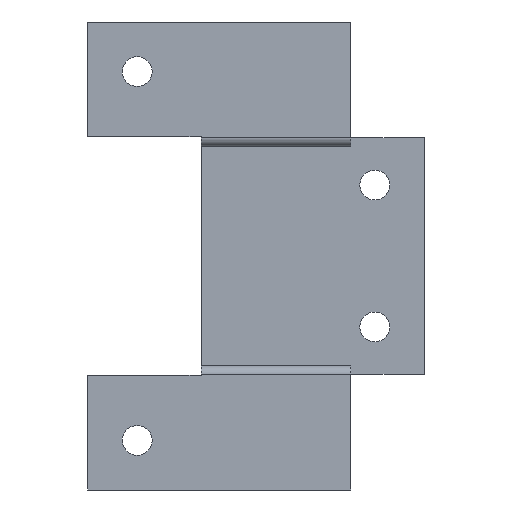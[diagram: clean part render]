
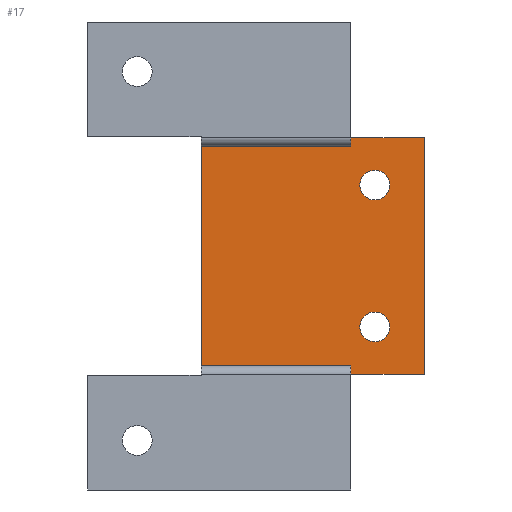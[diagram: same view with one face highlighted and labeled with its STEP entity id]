
A CAD part, left-side view. The second image highlights one B-rep face of the part: STEP entity #17.
In plain terms, the highlighted planar face has unit normal (-1, 0, 0).
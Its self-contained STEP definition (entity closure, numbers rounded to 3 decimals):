
#1 = CARTESIAN_POINT ( 'NONE',  ( -10.2, 7., -12.1 ) ) ;
#10 = VERTEX_POINT ( 'NONE', #526 ) ;
#11 = VECTOR ( 'NONE', #691, 1000. ) ;
#17 = ADVANCED_FACE ( 'NONE', ( #1165, #520, #143 ), #877, .T. ) ;
#26 = DIRECTION ( 'NONE',  ( 0., 0., -1. ) ) ;
#32 = CARTESIAN_POINT ( 'NONE',  ( -10.2, 10.4, 16.7 ) ) ;
#43 = CARTESIAN_POINT ( 'NONE',  ( -10.2, 7., -10. ) ) ;
#47 = CARTESIAN_POINT ( 'NONE',  ( -10.2, 10.4, -16.7 ) ) ;
#50 = DIRECTION ( 'NONE',  ( 0., 0., 1. ) ) ;
#57 = DIRECTION ( 'NONE',  ( 0., 0., 1. ) ) ;
#61 = CARTESIAN_POINT ( 'NONE',  ( -10.2, 31.5, -15.5 ) ) ;
#64 = CARTESIAN_POINT ( 'NONE',  ( -10.2, 10.4, -16.7 ) ) ;
#69 = CARTESIAN_POINT ( 'NONE',  ( -10.2, 0., -16.7 ) ) ;
#71 = LINE ( 'NONE', #884, #11 ) ;
#99 = CARTESIAN_POINT ( 'NONE',  ( -10.2, 7., -7.9 ) ) ;
#118 = LINE ( 'NONE', #47, #144 ) ;
#121 = ORIENTED_EDGE ( 'NONE', *, *, #970, .T. ) ;
#123 = VECTOR ( 'NONE', #719, 1000. ) ;
#143 = FACE_BOUND ( 'NONE', #391, .T. ) ;
#144 = VECTOR ( 'NONE', #416, 1000. ) ;
#157 = LINE ( 'NONE', #787, #1132 ) ;
#191 = DIRECTION ( 'NONE',  ( 0., 0., 1. ) ) ;
#206 = ORIENTED_EDGE ( 'NONE', *, *, #230, .T. ) ;
#215 = EDGE_CURVE ( 'NONE', #439, #472, #576, .T. ) ;
#220 = ORIENTED_EDGE ( 'NONE', *, *, #556, .T. ) ;
#227 = AXIS2_PLACEMENT_3D ( 'NONE', #1078, #265, #630 ) ;
#230 = EDGE_CURVE ( 'NONE', #616, #288, #792, .T. ) ;
#263 = CARTESIAN_POINT ( 'NONE',  ( -10.2, 7., 10. ) ) ;
#265 = DIRECTION ( 'NONE',  ( 1., 0., 0. ) ) ;
#285 = AXIS2_PLACEMENT_3D ( 'NONE', #401, #935, #313 ) ;
#288 = VERTEX_POINT ( 'NONE', #99 ) ;
#313 = DIRECTION ( 'NONE',  ( 0., 0., 1. ) ) ;
#320 = ORIENTED_EDGE ( 'NONE', *, *, #215, .F. ) ;
#347 = DIRECTION ( 'NONE',  ( -1., 0., 0. ) ) ;
#359 = CARTESIAN_POINT ( 'NONE',  ( -10.2, 0., -16.7 ) ) ;
#369 = VECTOR ( 'NONE', #50, 1000. ) ;
#385 = AXIS2_PLACEMENT_3D ( 'NONE', #69, #347, #57 ) ;
#391 = EDGE_LOOP ( 'NONE', ( #206, #1031 ) ) ;
#395 = EDGE_CURVE ( 'NONE', #1179, #495, #977, .T. ) ;
#401 = CARTESIAN_POINT ( 'NONE',  ( -10.2, 7., -10. ) ) ;
#415 = VERTEX_POINT ( 'NONE', #707 ) ;
#416 = DIRECTION ( 'NONE',  ( 0., 0., -1. ) ) ;
#417 = ORIENTED_EDGE ( 'NONE', *, *, #774, .T. ) ;
#418 = CARTESIAN_POINT ( 'NONE',  ( -10.2, 0., -16.7 ) ) ;
#425 = VERTEX_POINT ( 'NONE', #888 ) ;
#432 = VECTOR ( 'NONE', #736, 1000. ) ;
#437 = CARTESIAN_POINT ( 'NONE',  ( -10.2, 31.5, 15.5 ) ) ;
#439 = VERTEX_POINT ( 'NONE', #61 ) ;
#472 = VERTEX_POINT ( 'NONE', #437 ) ;
#495 = VERTEX_POINT ( 'NONE', #628 ) ;
#500 = CIRCLE ( 'NONE', #1162, 2.1 ) ;
#516 = ORIENTED_EDGE ( 'NONE', *, *, #972, .T. ) ;
#520 = FACE_BOUND ( 'NONE', #722, .T. ) ;
#526 = CARTESIAN_POINT ( 'NONE',  ( -10.2, 0., -16.7 ) ) ;
#542 = LINE ( 'NONE', #359, #123 ) ;
#554 = EDGE_LOOP ( 'NONE', ( #715, #320, #890, #417, #743, #516, #121, #587 ) ) ;
#556 = EDGE_CURVE ( 'NONE', #495, #1179, #500, .T. ) ;
#576 = LINE ( 'NONE', #1129, #1004 ) ;
#587 = ORIENTED_EDGE ( 'NONE', *, *, #818, .T. ) ;
#598 = DIRECTION ( 'NONE',  ( 0., 0., 1. ) ) ;
#612 = LINE ( 'NONE', #64, #868 ) ;
#616 = VERTEX_POINT ( 'NONE', #1 ) ;
#628 = CARTESIAN_POINT ( 'NONE',  ( -10.2, 7., 12.1 ) ) ;
#630 = DIRECTION ( 'NONE',  ( 0., 0., 1. ) ) ;
#641 = EDGE_CURVE ( 'NONE', #439, #1023, #819, .T. ) ;
#645 = EDGE_CURVE ( 'NONE', #10, #425, #542, .T. ) ;
#691 = DIRECTION ( 'NONE',  ( 0., -1., 0. ) ) ;
#692 = DIRECTION ( 'NONE',  ( 0., 1., 0. ) ) ;
#707 = CARTESIAN_POINT ( 'NONE',  ( -10.2, 10.4, 15.5 ) ) ;
#715 = ORIENTED_EDGE ( 'NONE', *, *, #724, .F. ) ;
#719 = DIRECTION ( 'NONE',  ( 0., 1., 0. ) ) ;
#722 = EDGE_LOOP ( 'NONE', ( #848, #220 ) ) ;
#724 = EDGE_CURVE ( 'NONE', #472, #415, #71, .T. ) ;
#736 = DIRECTION ( 'NONE',  ( 0., -1., 0. ) ) ;
#743 = ORIENTED_EDGE ( 'NONE', *, *, #645, .F. ) ;
#771 = DIRECTION ( 'NONE',  ( 1., 0., 0. ) ) ;
#774 = EDGE_CURVE ( 'NONE', #1023, #425, #612, .T. ) ;
#787 = CARTESIAN_POINT ( 'NONE',  ( -10.2, 0., 16.7 ) ) ;
#792 = CIRCLE ( 'NONE', #285, 2.1 ) ;
#818 = EDGE_CURVE ( 'NONE', #846, #415, #118, .T. ) ;
#819 = LINE ( 'NONE', #1175, #432 ) ;
#823 = CIRCLE ( 'NONE', #1015, 2.1 ) ;
#846 = VERTEX_POINT ( 'NONE', #32 ) ;
#848 = ORIENTED_EDGE ( 'NONE', *, *, #395, .T. ) ;
#868 = VECTOR ( 'NONE', #26, 1000. ) ;
#877 = PLANE ( 'NONE',  #385 ) ;
#884 = CARTESIAN_POINT ( 'NONE',  ( -10.2, 47.5, 15.5 ) ) ;
#888 = CARTESIAN_POINT ( 'NONE',  ( -10.2, 10.4, -16.7 ) ) ;
#890 = ORIENTED_EDGE ( 'NONE', *, *, #641, .T. ) ;
#910 = CARTESIAN_POINT ( 'NONE',  ( -10.2, 0., 16.7 ) ) ;
#935 = DIRECTION ( 'NONE',  ( 1., 0., 0. ) ) ;
#951 = LINE ( 'NONE', #418, #369 ) ;
#970 = EDGE_CURVE ( 'NONE', #1127, #846, #157, .T. ) ;
#972 = EDGE_CURVE ( 'NONE', #10, #1127, #951, .T. ) ;
#977 = CIRCLE ( 'NONE', #227, 2.1 ) ;
#986 = DIRECTION ( 'NONE',  ( 1., 0., 0. ) ) ;
#994 = EDGE_CURVE ( 'NONE', #288, #616, #823, .T. ) ;
#1004 = VECTOR ( 'NONE', #1125, 1000. ) ;
#1015 = AXIS2_PLACEMENT_3D ( 'NONE', #43, #771, #598 ) ;
#1023 = VERTEX_POINT ( 'NONE', #1145 ) ;
#1031 = ORIENTED_EDGE ( 'NONE', *, *, #994, .T. ) ;
#1078 = CARTESIAN_POINT ( 'NONE',  ( -10.2, 7., 10. ) ) ;
#1087 = CARTESIAN_POINT ( 'NONE',  ( -10.2, 7., 7.9 ) ) ;
#1125 = DIRECTION ( 'NONE',  ( 0., 0., 1. ) ) ;
#1127 = VERTEX_POINT ( 'NONE', #910 ) ;
#1129 = CARTESIAN_POINT ( 'NONE',  ( -10.2, 31.5, -15.5 ) ) ;
#1132 = VECTOR ( 'NONE', #692, 1000. ) ;
#1145 = CARTESIAN_POINT ( 'NONE',  ( -10.2, 10.4, -15.5 ) ) ;
#1162 = AXIS2_PLACEMENT_3D ( 'NONE', #263, #986, #191 ) ;
#1165 = FACE_OUTER_BOUND ( 'NONE', #554, .T. ) ;
#1175 = CARTESIAN_POINT ( 'NONE',  ( -10.2, 47.5, -15.5 ) ) ;
#1179 = VERTEX_POINT ( 'NONE', #1087 ) ;
